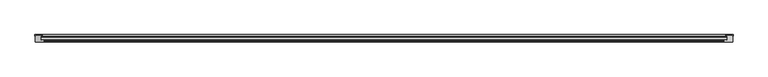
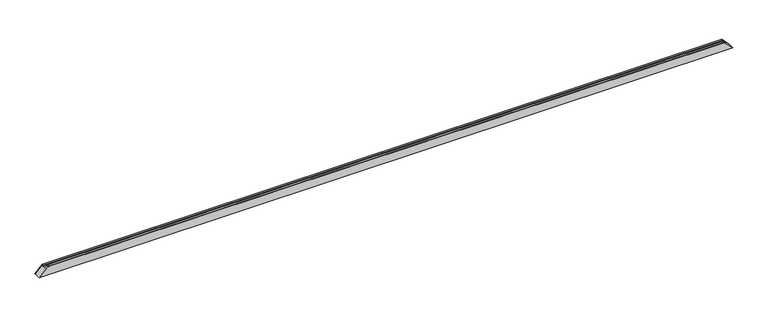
"""IFC4 building model written with IfcOpenShell, lengths in millimetres: proxy geometry, Weiku - Montante - Caixilho 02.2.01.005 : Weiku - Montante - Caixilho 02.2.01.005."""

from ifc_helpers import new_model, si_unit, frame, origin, place, context, project, spatial, ellipse_curve, faceted_brep, source, transform, mapped, element, save
from ifc_brep_helpers import plane_surface, cylinder_surface, advanced_brep


def generic_models_c4cc7b58(model_context):
    return source(origin(), model_context, "Body", "SolidModel", [
        faceted_brep([(-2497.0, 43.5137905, 0.0), (-2497.0, 50.0, 0.0), (-2448.0, 50.0, 49.0), (-2448.0, 43.5137905, 49.0), (-2446.0, 43.5137905, 51.0), (-2446.0, 52.0, 51.0), (-2498.0, 52.0, -1.0), (-2498.0, 43.5137905, -1.0), (2497.0, 50.0, 0.0), (2497.0, 43.5137905, 0.0), (2498.0, 43.5137905, -1.0), (2498.0, 52.0, -1.0), (2446.0, 52.0, 51.0), (2446.0, 43.5137905, 51.0), (2448.0, 43.5137905, 49.0), (2448.0, 50.0, 49.0)], [[[0, 1, 2, 3, 4, 5, 6, 7]], [[8, 9, 10, 11, 12, 13, 14, 15]], [[1, 0, 9, 8]], [[2, 1, 8, 15]], [[3, 2, 15, 14]], [[4, 3, 14, 13]], [[5, 4, 13, 12]], [[6, 5, 12, 11]], [[7, 6, 11, 10]], [[0, 7, 10, 9]]]),
        advanced_brep(
        [(-2451.0, 12.5, 46.0), (-2430.8909676, 12.5, 66.1090324), (2430.8909676, 12.5, 66.1090324), (2451.0, 12.5, 46.0), (-2451.0, 37.8314286, 46.0), (2451.0, 37.8314286, 46.0), (-2448.0, 37.027581, 49.0), (2448.0, 37.027581, 49.0), (-2448.0, 50.0, 49.0), (2448.0, 50.0, 49.0), (2497.0, 50.0, 0.0), (-2497.0, 50.0, 0.0), (2497.0, 0.0, 0.0), (-2497.0, 0.0, 0.0), (2435.4997332, 0.0, 61.5002668), (-2435.4997332, 0.0, 61.5002668), (-2430.118227, 11.4929448, 66.881773), (-2432.6019557, 2.2235429, 64.3980443), (2432.6019557, 2.2235429, 64.3980443), (2430.118227, 11.4929448, 66.881773)],
        [
            (0, 1),
            (1, 2),
            (2, 3),
            (3, 0),
            (4, 0),
            (3, 5),
            (5, 4),
            (6, 4),
            (5, 7),
            (7, 6),
            (8, 6),
            (7, 9),
            (9, 8),
            (10, 11),
            (11, 8),
            (9, 10),
            (10, 12),
            (12, 13),
            (13, 11),
            (12, 14),
            (14, 15),
            (15, 13),
            (16, 17),
            (17, 18),
            (18, 19),
            (19, 16),
            (15, 17, ellipse_curve(frame((-2435.4997332, 3.0, 61.5002668), z_axis=(-0.7071067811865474, 0.0, 0.7071067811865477), x_axis=(-0.7071067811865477, 0.0, -0.7071067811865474)), 4.2426407, 3.0)),
            (16, 1, ellipse_curve(frame((-2430.8909676, 11.7, 66.1090324), z_axis=(-0.7071067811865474, 0.0, 0.7071067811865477), x_axis=(-0.7071067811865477, 0.0, -0.7071067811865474)), 1.1313708, 0.8)),
            (2, 19, ellipse_curve(frame((2430.8909676, 11.7, 66.1090324), z_axis=(0.7071067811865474, 0.0, 0.7071067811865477), x_axis=(-0.7071067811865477, 0.0, 0.7071067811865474)), 1.1313708, 0.8)),
            (18, 14, ellipse_curve(frame((2435.4997332, 3.0, 61.5002668), z_axis=(0.7071067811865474, 0.0, 0.7071067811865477), x_axis=(-0.7071067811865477, 0.0, 0.7071067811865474)), 4.2426407, 3.0)),
        ],
        [
            plane_surface(frame((-2497.0, 12.5, 66.1090324), z_axis=(0.0, 1.0, 0.0), x_axis=(1.0, 0.0, 0.0))),
            plane_surface(frame((-2497.0, 12.5, 46.0), z_axis=(0.0, 0.0, 1.0), x_axis=(1.0, 0.0, 0.0))),
            plane_surface(frame((-2497.0, 37.8314286, 46.0), z_axis=(0.0, -0.9659258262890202, -0.2588190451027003), x_axis=(1.0, 0.0, 0.0))),
            plane_surface(frame((-2497.0, 37.027581, 49.0), z_axis=(0.0, 0.0, 1.0), x_axis=(1.0, 0.0, 0.0))),
            plane_surface(frame((-2497.0, 50.0, 49.0), z_axis=(0.0, 1.0, 0.0), x_axis=(1.0, 0.0, 0.0))),
            plane_surface(frame((-2497.0, 50.0, 0.0), z_axis=(0.0, 0.0, -1.0), x_axis=(1.0, 0.0, 0.0))),
            plane_surface(frame((-2497.0, 0.0, 0.0), z_axis=(0.0, -1.0, 0.0), x_axis=(1.0, 0.0, 0.0))),
            plane_surface(frame((-2497.0, 2.2235429, 64.3980443), z_axis=(0.0, -0.2588190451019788, 0.9659258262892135), x_axis=(1.0, 0.0, 0.0))),
            plane_surface(frame((-2567.0, -15.0, -70.0), z_axis=(-0.7071067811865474, 0.0, 0.7071067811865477), x_axis=(0.0, 1.0, 0.0))),
            plane_surface(frame((2427.0, -15.0, 70.0), z_axis=(0.7071067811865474, 0.0, 0.7071067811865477), x_axis=(0.0, 1.0, 0.0))),
            cylinder_surface(frame((-2497.0, 11.7, 66.1090324), z_axis=(-1.0, 0.0, 0.0), x_axis=(0.0, 1.0, 0.0)), 0.8),
            cylinder_surface(frame((-2497.0, 3.0, 61.5002668), z_axis=(-1.0, 0.0, 0.0), x_axis=(0.0, 1.0, 0.0)), 3.0),
        ],
        [
            (0, [[1, 2, 3, 4]]),
            (1, [[5, -4, 6, 7]]),
            (2, [[8, -7, 9, 10]]),
            (3, [[11, -10, 12, 13]]),
            (4, [[14, 15, -13, 16]]),
            (5, [[-14, 17, 18, 19]]),
            (6, [[-18, 20, 21, 22]]),
            (7, [[23, 24, 25, 26]]),
            (8, [[-1, -5, -8, -11, -15, -19, -22, 27, -23, 28]]),
            (9, [[-3, 29, -25, 30, -20, -17, -16, -12, -9, -6]]),
            (10, [[-28, -26, -29, -2]]),
            (11, [[-27, -21, -30, -24]]),
        ],
    ),
    ])


if __name__ == "__main__":
    model = new_model("IFC4")
    model_context = context("Model", 3, world=origin())
    ifc_project = project(units=[si_unit("LENGTHUNIT", "METRE", prefix="MILLI")], contexts=[model_context])
    site = spatial("IfcSite", under=ifc_project)
    building = spatial("IfcBuilding", under=site)
    placement = place(None, origin())
    generic_models_shape = generic_models_c4cc7b58(model_context)
    element("IfcBuildingElementProxy", 1, Name="Weiku - Montante - Caixilho 02.2.01.005 : Weiku - Montante - Caixilho 02.2.01.005", ObjectType="Weiku - Montante - Caixilho 02.2.01.005 : Weiku - Montante - Caixilho 02.2.01.005", at=placement, inside=building, context=model_context, shape_type="MappedRepresentation", body=[
        mapped(generic_models_shape, transform((0.0, 0.0, 0.0), x_axis=(1.0, 0.0, 0.0), y_axis=(0.0, 1.0, 0.0), z_axis=(0.0, 0.0, 1.0))),
    ])
    save(model, "model.ifc")
